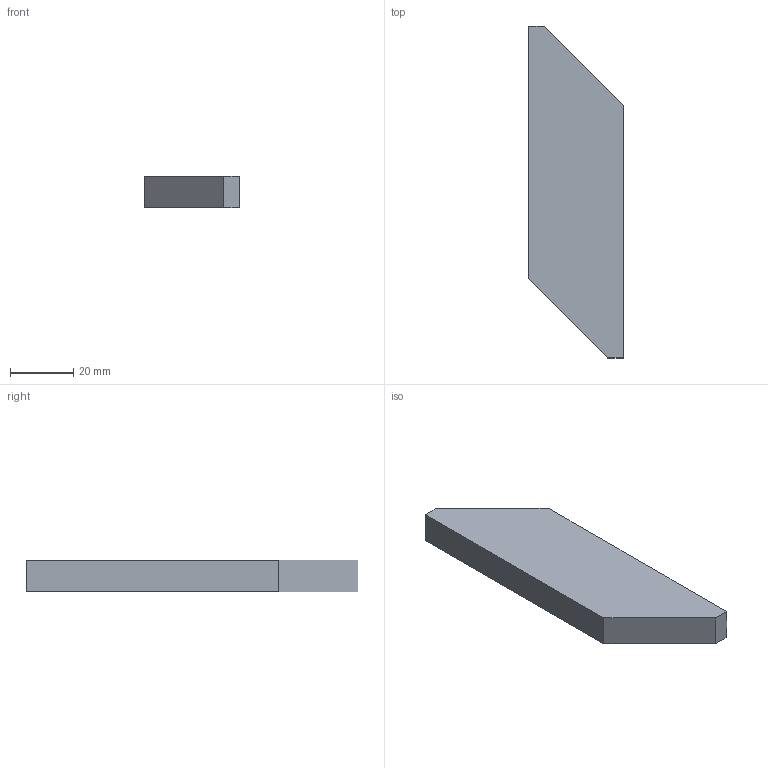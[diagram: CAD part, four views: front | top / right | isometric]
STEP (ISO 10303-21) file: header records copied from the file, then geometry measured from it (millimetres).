
FILE_DESCRIPTION(/* description */ (''),/* implementation_level */ '2;1');
FILE_NAME(/* name */ 'Pos129-Plaatwerk D= 10-S235JRG2-6st',/* time_stamp */ '2024-08-06T13:37:43+02:00',/* author */ (''),/* organization */ (''),/* preprocessor_version */ 'ST-DEVELOPER v16.5',/* originating_system */ 'HiCAD 2024 2901.2 Build 361',/* authorisation */ '');
FILE_SCHEMA (('AUTOMOTIVE_DESIGN { 1 0 10303 214 1 1 1 1 }'));
Length unit declared in the file: millimetre
Products named in the file (1): Pos129-Plaatwerk D= 10-S235JRG2-6st
Bounding box: 30 x 105 x 10 mm (x, y, z)
Volume: 25250 mm3; surface area: 7457.1 mm2
Topology: 1 solids, 1 shells, 8 faces, 18 edges, 12 vertices
Faces by surface type: plane 8
Entity records: 420 total; most frequent: CARTESIAN_POINT 38, PRESENTATION_STYLE_ASSIGNMENT 37, COLOUR_RGB 37, DRAUGHTING_PRE_DEFINED_CURVE_FONT 36, CURVE_STYLE 36, OVER_RIDING_STYLED_ITEM 36, ORIENTED_EDGE 36, DIRECTION 34
